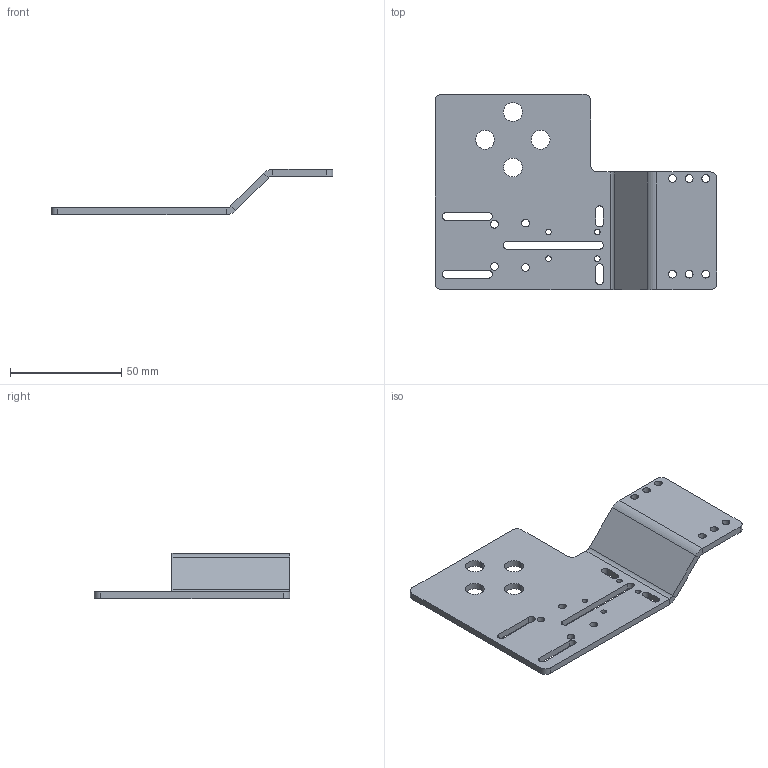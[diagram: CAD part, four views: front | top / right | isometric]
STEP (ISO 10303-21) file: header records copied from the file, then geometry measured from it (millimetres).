
FILE_DESCRIPTION (( 'STEP AP214' ), '1' );
FILE_NAME ('005874-B.STEP', '2013-04-09T07:10:02', ( ' ' ), ( '' ), 'SwSTEP 2.0', 'SolidWorks 2009', '' );
FILE_SCHEMA (( 'AUTOMOTIVE_DESIGN' ));
Length unit declared in the file: millimetre
Products named in the file (1): 005874-B
Bounding box: 126.8 x 88 x 20.31 mm (x, y, z)
Volume: 26433 mm3; surface area: 20386.8 mm2
Topology: 1 solids, 1 shells, 89 faces, 245 edges, 158 vertices
Faces by surface type: cylinder 59, plane 30
Entity records: 2984 total; most frequent: DIRECTION 543, CARTESIAN_POINT 493, ORIENTED_EDGE 490, EDGE_CURVE 245, AXIS2_PLACEMENT_3D 208, VERTEX_POINT 158, EDGE_LOOP 135, VECTOR 127
